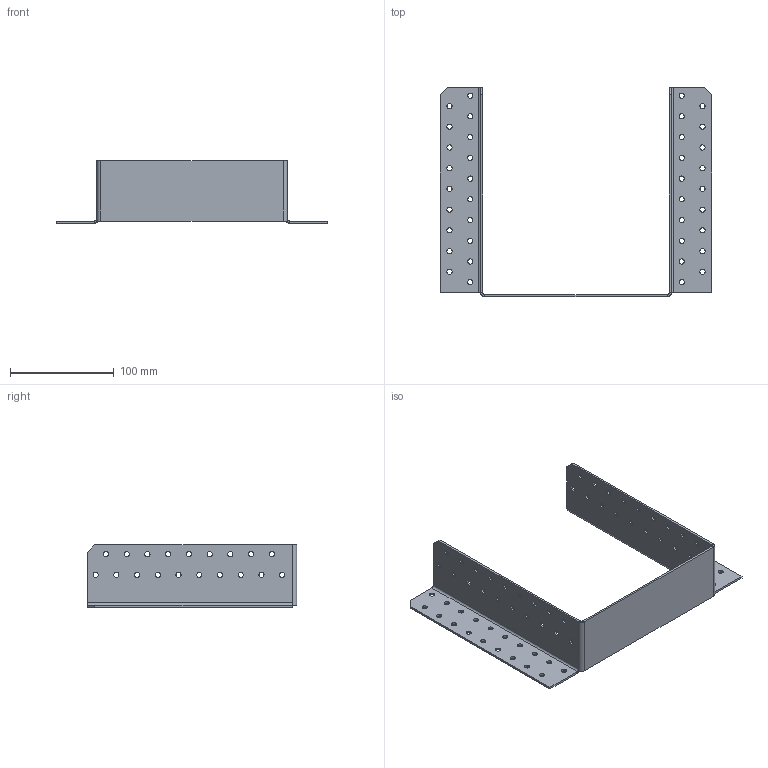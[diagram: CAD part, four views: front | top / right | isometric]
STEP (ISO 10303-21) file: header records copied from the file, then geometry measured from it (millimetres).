
FILE_DESCRIPTION (( 'STEP AP203' ), '1' );
FILE_NAME ('405212.STEP', '2021-04-17T17:39:03', ( '' ), ( '' ), 'SwSTEP 2.0', 'SolidWorks 2013', '' );
FILE_SCHEMA (( 'CONFIG_CONTROL_DESIGN' ));
Length unit declared in the file: millimetre
Products named in the file (1): 405212
Bounding box: 262 x 202 x 60 mm (x, y, z)
Volume: 95717 mm3; surface area: 100948.6 mm2
Topology: 1 solids, 1 shells, 196 faces, 552 edges, 358 vertices
Faces by surface type: cylinder 160, plane 36
Entity records: 6859 total; most frequent: DIRECTION 1268, CARTESIAN_POINT 1107, ORIENTED_EDGE 1104, EDGE_CURVE 552, AXIS2_PLACEMENT_3D 519, VERTEX_POINT 358, EDGE_LOOP 348, CIRCLE 322
